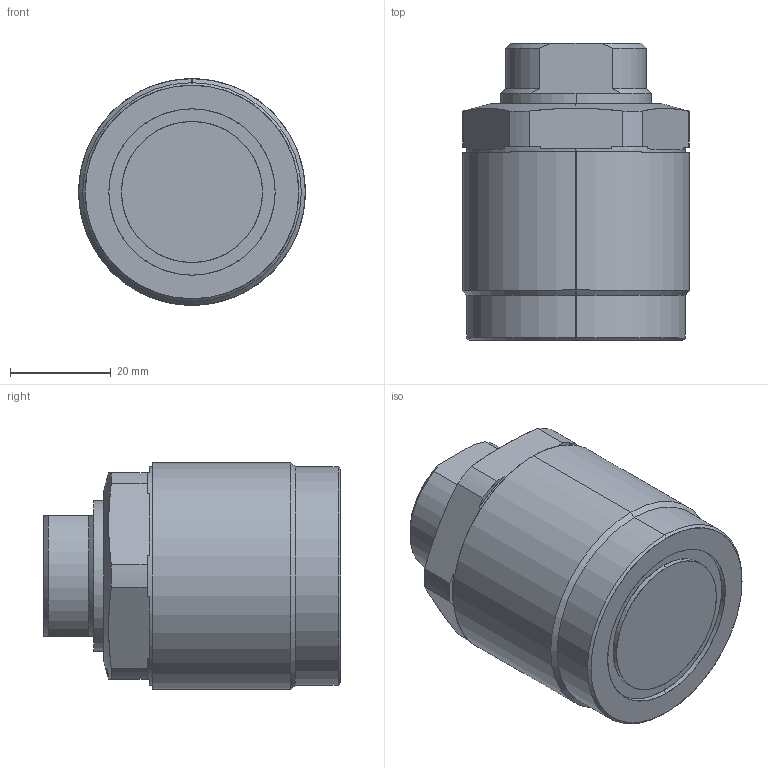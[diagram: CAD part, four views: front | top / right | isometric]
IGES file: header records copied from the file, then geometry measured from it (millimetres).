
Start section: SolidWorks IGES file using analytic representation for surfaces
Global section: file name: D:\karuppas\Clasp\3D model\Thread body cylinder\T03C-M455-S threaded pusher\T03C-M455-S threaded pusher.IGS; native system: SolidWorks 2017; preprocessor: SolidWorks 2017; author: pc; date: 220709.231436; units: millimetre
Bounding box: 45 x 59 x 45 mm (x, y, z)
Surface area: 15584.9 mm2 (no closed solid volume)
Topology: 0 solids, 0 shells, 266 faces, 3563 edges, 3561 vertices
Faces by surface type: bspline 230, revolution 36
